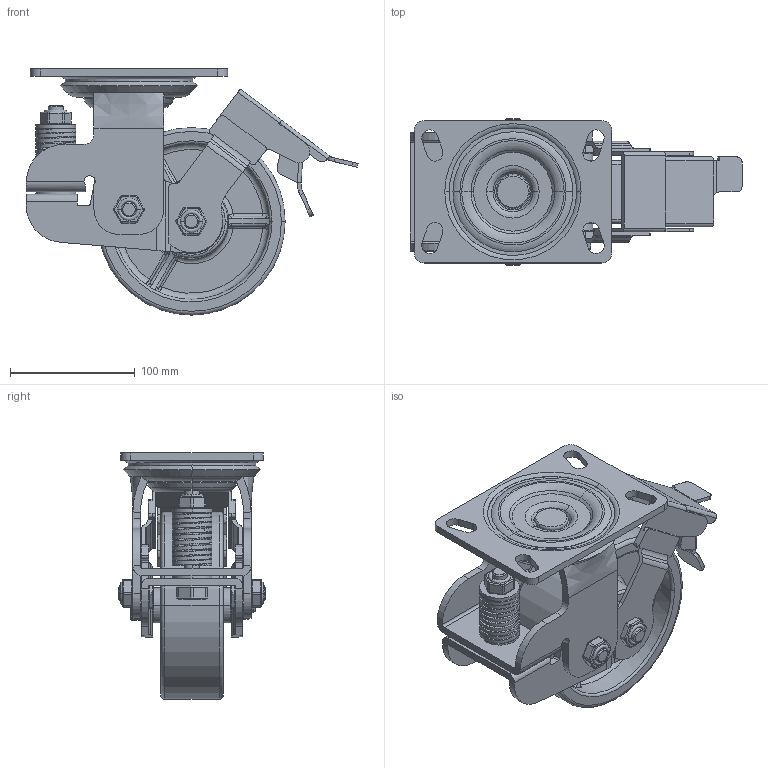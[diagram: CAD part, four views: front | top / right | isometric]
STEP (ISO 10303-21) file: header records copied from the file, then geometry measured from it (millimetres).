
FILE_DESCRIPTION(/* description */ (''),/* implementation_level */ '2;1');
FILE_NAME(/* name */ '45C36_6_R.stp',/* time_stamp */ '2022-10-07T11:07:27+08:00',/* author */ (''),/* organization */ (''),/* preprocessor_version */ 'ST-DEVELOPER v14',/* originating_system */ 'SIEMENS PLM Software NX 8.0',/* authorisation */ '');
FILE_SCHEMA (('AUTOMOTIVE_DESIGN { 1 0 10303 214 3 1 1 1 }'));
Length unit declared in the file: millimetre
Products named in the file (1): 45C36_6_R
Bounding box: 265.66 x 117.38 x 197 mm (x, y, z)
Volume: 1041978.2 mm3; surface area: 276016.5 mm2
Topology: 1 solids, 4 shells, 1019 faces, 2661 edges, 1690 vertices
Faces by surface type: plane 431, cylinder 332, bspline 104, torus 92, cone 58, extrusion 2
Entity records: 38667 total; most frequent: CARTESIAN_POINT 14195, ORIENTED_EDGE 5322, DIRECTION 4921, EDGE_CURVE 2661, AXIS2_PLACEMENT_3D 1864, VERTEX_POINT 1690, VECTOR 1193, LINE 1191
